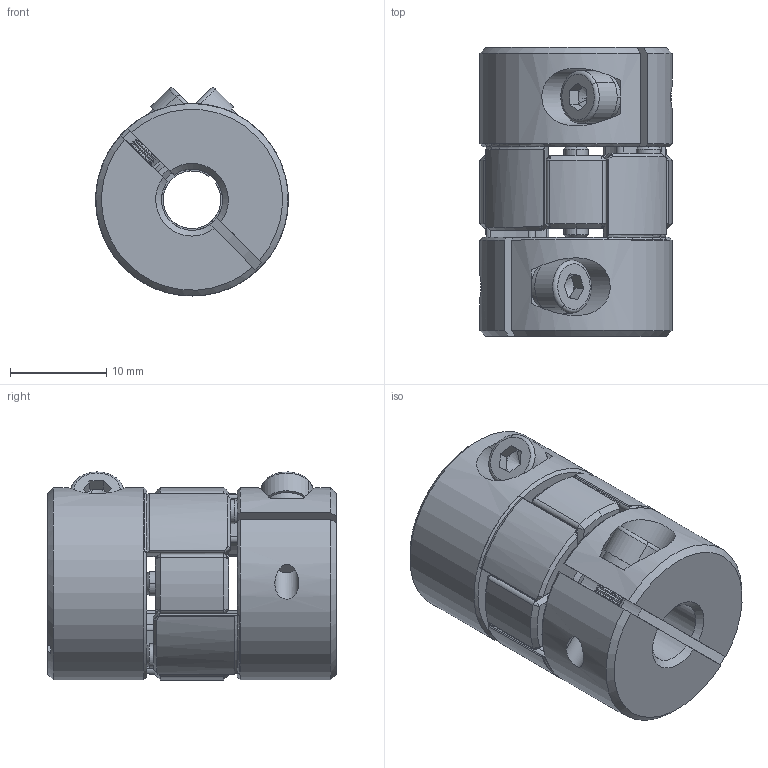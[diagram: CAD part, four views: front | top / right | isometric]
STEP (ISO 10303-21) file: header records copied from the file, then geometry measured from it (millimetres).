
FILE_DESCRIPTION (( 'STEP AP203' ), '1' );
FILE_NAME ('LF-B-D20L30-6-6.35.STEP', '2021-10-27T02:49:07', ( '' ), ( '' ), 'SwSTEP 2.0', 'SolidWorks 2018', '' );
FILE_SCHEMA (( 'CONFIG_CONTROL_DESIGN' ));
Length unit declared in the file: millimetre
Products named in the file (1): LF-B-D20L30-6-6.35
Bounding box: 20 x 30 x 21.62 mm (x, y, z)
Volume: 7705.7 mm3; surface area: 4887.7 mm2
Topology: 1 solids, 1 shells, 518 faces, 1253 edges, 691 vertices
Faces by surface type: cone 252, cylinder 192, plane 62, torus 12
Entity records: 15024 total; most frequent: CARTESIAN_POINT 2904, DIRECTION 2742, ORIENTED_EDGE 2426, EDGE_CURVE 1213, AXIS2_PLACEMENT_3D 1107, VERTEX_POINT 691, CIRCLE 588, EDGE_LOOP 546
